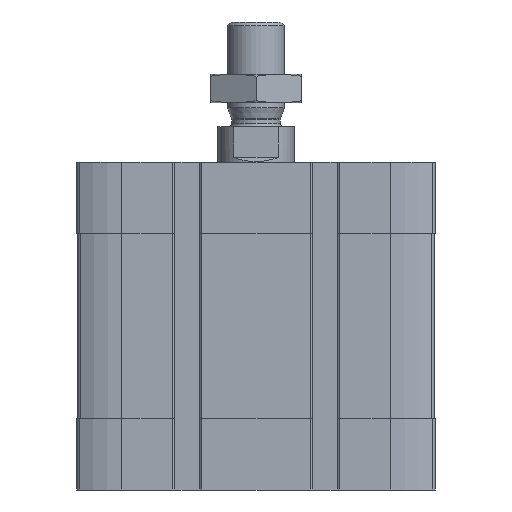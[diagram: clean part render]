
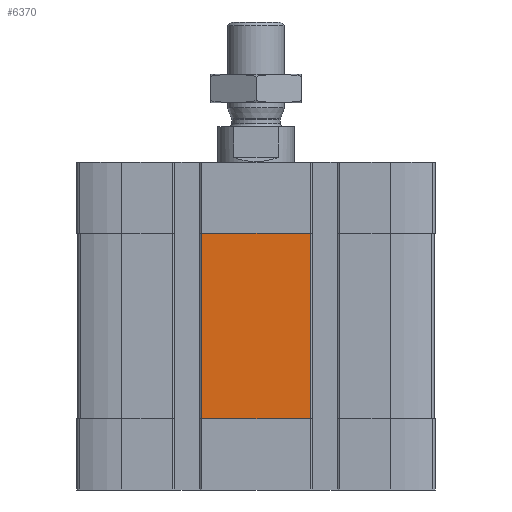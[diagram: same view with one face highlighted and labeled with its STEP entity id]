
A CAD part, front view. The second image highlights one B-rep face of the part: STEP entity #6370.
In plain terms, the highlighted planar face has unit normal (0, -1, 0).
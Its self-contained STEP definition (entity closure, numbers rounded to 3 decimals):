
#421 = EDGE_CURVE ( 'NONE', #4010, #13643, #2042, .T. ) ;
#477 = CARTESIAN_POINT ( 'NONE',  ( 11.4, -37.5, -54. ) ) ;
#489 = DIRECTION ( 'NONE',  ( 0., 0., 1. ) ) ;
#599 = CARTESIAN_POINT ( 'NONE',  ( -11.4, -37.5, -54. ) ) ;
#625 = EDGE_CURVE ( 'NONE', #14139, #4010, #4956, .T. ) ;
#1875 = VECTOR ( 'NONE', #10250, 1000. ) ;
#2042 = LINE ( 'NONE', #7782, #1875 ) ;
#2402 = CARTESIAN_POINT ( 'NONE',  ( 11.4, -37.5, -15. ) ) ;
#2459 = ORIENTED_EDGE ( 'NONE', *, *, #15072, .T. ) ;
#2544 = ORIENTED_EDGE ( 'NONE', *, *, #421, .T. ) ;
#2832 = ORIENTED_EDGE ( 'NONE', *, *, #625, .T. ) ;
#3676 = DIRECTION ( 'NONE',  ( 0., 0., -1. ) ) ;
#4010 = VERTEX_POINT ( 'NONE', #2402 ) ;
#4411 = CARTESIAN_POINT ( 'NONE',  ( 11.4, -37.5, -54. ) ) ;
#4956 = LINE ( 'NONE', #477, #5163 ) ;
#5163 = VECTOR ( 'NONE', #489, 1000. ) ;
#5659 = DIRECTION ( 'NONE',  ( 1., 0., 0. ) ) ;
#5713 = VECTOR ( 'NONE', #8439, 1000. ) ;
#5958 = FACE_OUTER_BOUND ( 'NONE', #15796, .T. ) ;
#6160 = CARTESIAN_POINT ( 'NONE',  ( -11.4, -37.5, -54. ) ) ;
#6370 = ADVANCED_FACE ( 'NONE', ( #5958 ), #7426, .T. ) ;
#6503 = AXIS2_PLACEMENT_3D ( 'NONE', #6160, #11330, #3676 ) ;
#6507 = LINE ( 'NONE', #15886, #5713 ) ;
#7383 = ORIENTED_EDGE ( 'NONE', *, *, #9048, .T. ) ;
#7426 = PLANE ( 'NONE',  #6503 ) ;
#7782 = CARTESIAN_POINT ( 'NONE',  ( 0., -37.5, -15. ) ) ;
#8439 = DIRECTION ( 'NONE',  ( 0., 0., -1. ) ) ;
#9048 = EDGE_CURVE ( 'NONE', #14903, #14139, #9118, .T. ) ;
#9118 = LINE ( 'NONE', #9508, #9367 ) ;
#9367 = VECTOR ( 'NONE', #5659, 1000. ) ;
#9508 = CARTESIAN_POINT ( 'NONE',  ( -11.4, -37.5, -54. ) ) ;
#10250 = DIRECTION ( 'NONE',  ( -1., 0., 0. ) ) ;
#11330 = DIRECTION ( 'NONE',  ( 0., -1., 0. ) ) ;
#13643 = VERTEX_POINT ( 'NONE', #14758 ) ;
#14139 = VERTEX_POINT ( 'NONE', #4411 ) ;
#14758 = CARTESIAN_POINT ( 'NONE',  ( -11.4, -37.5, -15. ) ) ;
#14903 = VERTEX_POINT ( 'NONE', #599 ) ;
#15072 = EDGE_CURVE ( 'NONE', #13643, #14903, #6507, .T. ) ;
#15796 = EDGE_LOOP ( 'NONE', ( #7383, #2832, #2544, #2459 ) ) ;
#15886 = CARTESIAN_POINT ( 'NONE',  ( -11.4, -37.5, -54. ) ) ;
